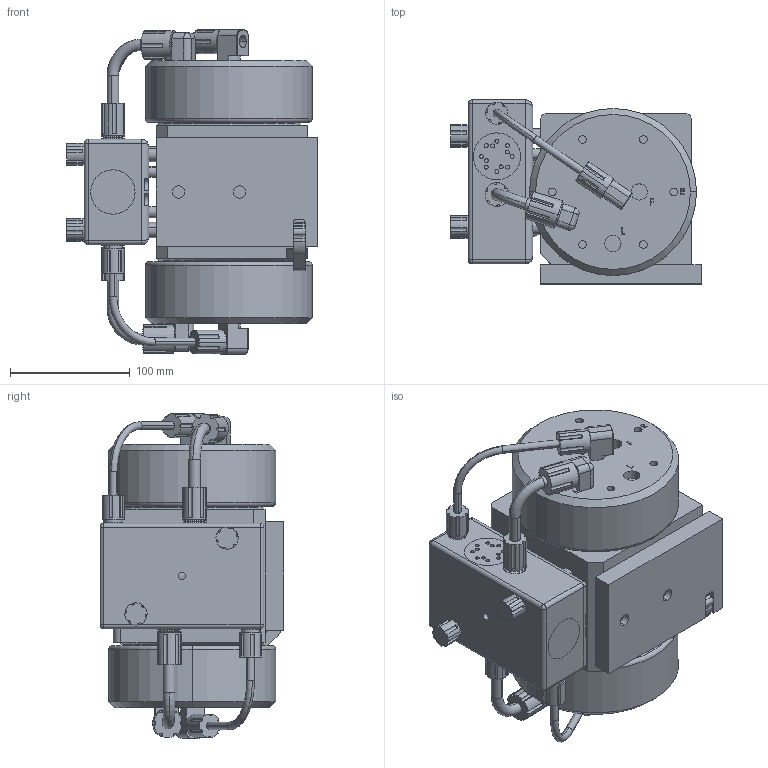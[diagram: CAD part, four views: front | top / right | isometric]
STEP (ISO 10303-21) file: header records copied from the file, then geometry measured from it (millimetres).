
FILE_DESCRIPTION (( 'STEP AP214' ), '1' );
FILE_NAME ('psa060-t-fitting.STEP', '2012-11-26T18:06:23', ( '' ), ( '' ), 'SwSTEP 2.0', 'SolidWorks 2012', '' );
FILE_SCHEMA (( 'AUTOMOTIVE_DESIGN' ));
Length unit declared in the file: inch
Products named in the file (1): psa060-t-fitting
Bounding box: 209.8 x 153.91 x 271.27 mm (x, y, z)
Volume: 4312163.6 mm3; surface area: 291108.8 mm2
Topology: 2 solids, 2 shells, 1504 faces, 3916 edges, 2580 vertices
Faces by surface type: plane 880, cylinder 379, bspline 163, cone 62, torus 12, sphere 8
Entity records: 62351 total; most frequent: CARTESIAN_POINT 17178, ORIENTED_EDGE 7808, DIRECTION 7265, EDGE_CURVE 3904, VERTEX_POINT 2580, LINE 2539, VECTOR 2539, AXIS2_PLACEMENT_3D 2363
